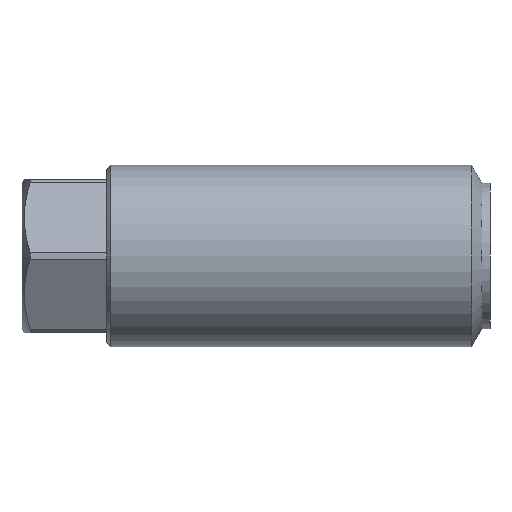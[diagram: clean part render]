
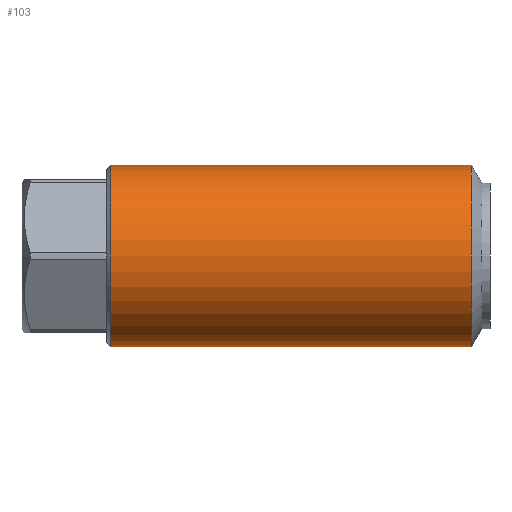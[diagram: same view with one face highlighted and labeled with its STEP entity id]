
A CAD part, front view. The second image highlights one B-rep face of the part: STEP entity #103.
In plain terms, the highlighted cylindrical face has radius 11.25 mm (diameter 22.5 mm), a full revolution.
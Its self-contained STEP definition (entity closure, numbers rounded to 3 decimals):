
#79=FACE_BOUND('',#197,.T.);
#80=FACE_BOUND('',#198,.T.);
#103=ADVANCED_FACE('',(#79,#80),#139,.T.);
#139=CYLINDRICAL_SURFACE('',#699,11.25);
#197=EDGE_LOOP('',(#378));
#198=EDGE_LOOP('',(#379));
#251=CIRCLE('',#696,11.25);
#252=CIRCLE('',#698,11.25);
#378=ORIENTED_EDGE('',*,*,#595,.T.);
#379=ORIENTED_EDGE('',*,*,#596,.F.);
#529=VERTEX_POINT('',#1588);
#530=VERTEX_POINT('',#1591);
#595=EDGE_CURVE('',#529,#529,#251,.T.);
#596=EDGE_CURVE('',#530,#530,#252,.T.);
#696=AXIS2_PLACEMENT_3D('',#1587,#822,#823);
#698=AXIS2_PLACEMENT_3D('',#1590,#826,#827);
#699=AXIS2_PLACEMENT_3D('',#1592,#828,#829);
#822=DIRECTION('',(-1.,0.,0.));
#823=DIRECTION('',(0.,0.,1.));
#826=DIRECTION('',(-1.,0.,0.));
#827=DIRECTION('',(0.,0.,1.));
#828=DIRECTION('',(-1.,0.,0.));
#829=DIRECTION('',(0.,0.,-1.));
#1587=CARTESIAN_POINT('',(63.128,16.045,0.));
#1588=CARTESIAN_POINT('',(63.128,16.045,11.25));
#1590=CARTESIAN_POINT('',(18.429,16.045,0.));
#1591=CARTESIAN_POINT('',(18.429,16.045,11.25));
#1592=CARTESIAN_POINT('',(6.143,16.045,0.));
